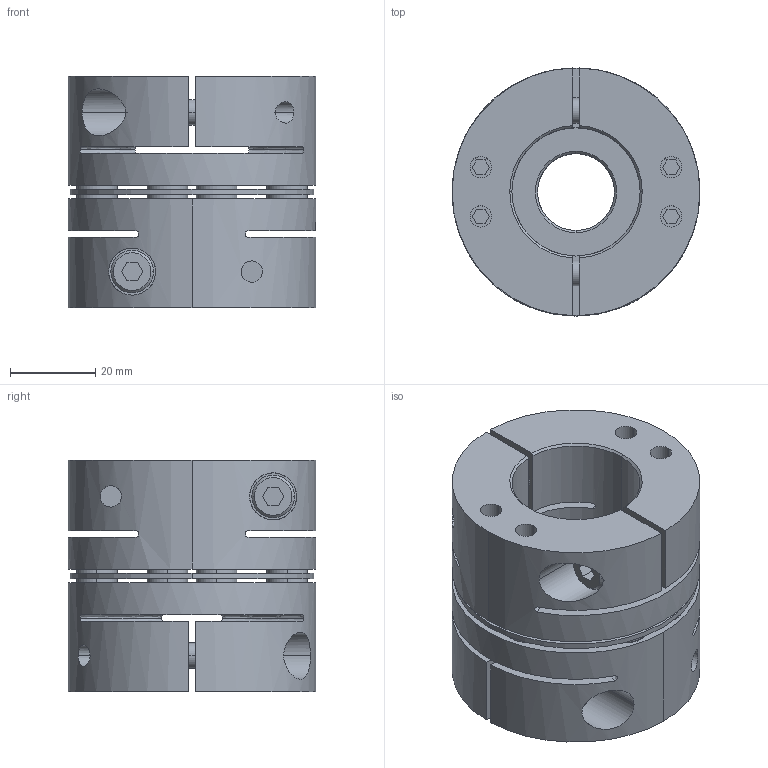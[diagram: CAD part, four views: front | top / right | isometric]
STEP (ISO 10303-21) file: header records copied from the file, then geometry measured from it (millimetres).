
FILE_DESCRIPTION((''),'2;1');
FILE_NAME('TAS-58C-18×30.stp','2022-11-14T22:19:23',(''),(''),'AutoCAD STEP 2000i','AutoCAD 2000i',', , ');
FILE_SCHEMA(('CONFIG_CONTROL_DESIGN'));
Length unit declared in the file: millimetre
Products named in the file (6): TAS-58C-12×22; 忣兜1; TA58C-22; CAP-M6×20; TA58C-12-2; TA58C-12
Assembly tree (7 placements, depth 3):
  TAS-58C-12×22
    忣兜1
    TA58C-22
      CAP-M6×20
    TA58C-12-2
      CAP-M6×20
    TA58C-12
      CAP-M6×20
Bounding box: 58 x 58 x 54.25 mm (x, y, z)
Volume: 97943.5 mm3; surface area: 40993.8 mm2
Topology: 1 solids, 1 shells, 360 faces, 898 edges, 628 vertices
Faces by surface type: plane 160, cylinder 148, cone 36, bspline 16
Entity records: 12805 total; most frequent: CARTESIAN_POINT 3832, DIRECTION 1922, ORIENTED_EDGE 1720, EDGE_CURVE 860, AXIS2_PLACEMENT_3D 732, VERTEX_POINT 564, EDGE_LOOP 464, VECTOR 458
